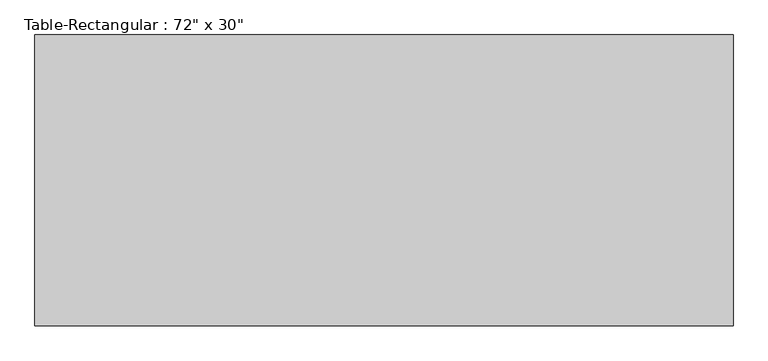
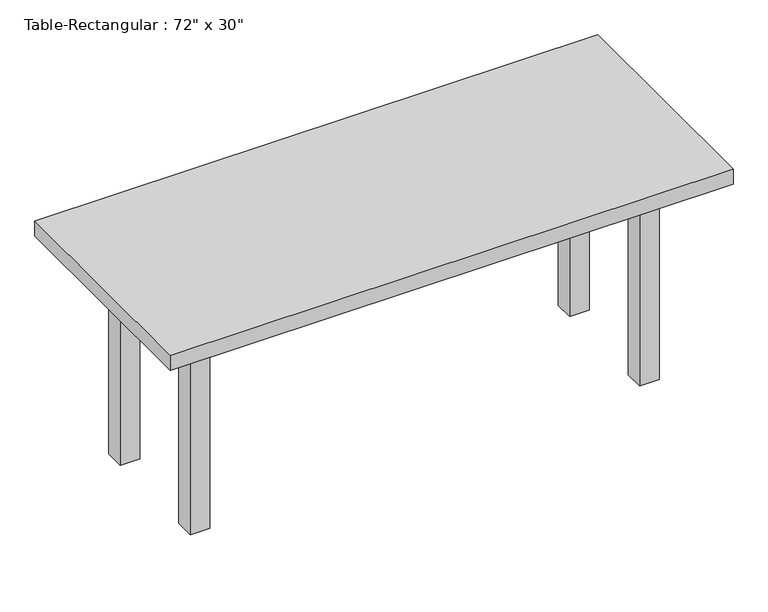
"""IFC4 building model written with IfcOpenShell, lengths in millimetres: furniture geometry."""

import ifcopenshell
import ifcopenshell.guid

model = None  # the IFC model being written
_history = None  # IfcOwnerHistory: only IFC2X3 demands one
_inside = {}  # id of a spatial element -> (the spatial element, [elements in it])
_under = {}  # id of a project, library or spatial element -> (it, [spatial elements below it])
_declared = {}  # id of a project -> (the project, [libraries it declares])
_typed = {}  # id of a type object -> (the type object, [elements of that type])
_made_of = {}  # id of a material, layer set ... -> (it, [elements and type objects made of it])


def new_model(schema):
    """Start an empty IFC model of exactly this schema.

    Asked for "IFC4X3", IfcOpenShell would pick the latest addendum, in which some entities
    have other attributes; the version numbers below select the first issue.
    IFC2X3 requires an IfcOwnerHistory on every rooted entity: one is made here for all.
    """
    global model, _history
    if schema == "IFC4X3":
        model = ifcopenshell.file(schema_version=(4, 3, 0, 0))
    else:
        model = ifcopenshell.file(schema=schema)
    _inside.clear()
    _under.clear()
    _declared.clear()
    _typed.clear()
    _made_of.clear()
    _history = None
    if model.schema == "IFC2X3":
        org = make("IfcOrganization", Name="unknown")
        user = make(
            "IfcPersonAndOrganization",
            ThePerson=make("IfcPerson", FamilyName="unknown"),
            TheOrganization=org,
        )
        app = make(
            "IfcApplication",
            ApplicationDeveloper=org,
            Version="unknown",
            ApplicationFullName="unknown",
            ApplicationIdentifier="unknown",
        )
        _history = make(
            "IfcOwnerHistory",
            OwningUser=user,
            OwningApplication=app,
            ChangeAction="ADDED",
            CreationDate=0,
        )
    return model


def make(cls, **values):
    """One entity of the class cls with the attributes given. An attribute that is None is left unset."""
    return model.create_entity(
        cls, **{name: value for name, value in values.items() if value is not None}
    )


def rooted(cls, **values):
    """An entity with a GlobalId (a new one), such as an element, a storey or a relation."""
    return make(cls, GlobalId=ifcopenshell.guid.new(), OwnerHistory=_history, **values)


def si_unit(unit_type, name, prefix=None):
    """IfcSIUnit, for example si_unit("LENGTHUNIT", "METRE", prefix="MILLI")."""
    return make("IfcSIUnit", UnitType=unit_type, Prefix=prefix, Name=name)


def assignment(units):
    """IfcUnitAssignment: the units of a project."""
    return None if units is None else make("IfcUnitAssignment", Units=units)


def point(xyz):
    """IfcCartesianPoint."""
    return None if xyz is None else make("IfcCartesianPoint", Coordinates=xyz)


def direction(xyz):
    """IfcDirection."""
    return None if xyz is None else make("IfcDirection", DirectionRatios=xyz)


def frame(location, z_axis=None, x_axis=None):
    """IfcAxis2Placement3D, a coordinate frame: its origin and axes. An axis left out is left unset."""
    return make(
        "IfcAxis2Placement3D",
        Location=point(location),
        Axis=direction(z_axis),
        RefDirection=direction(x_axis),
    )


def origin():
    """The frame at (0, 0, 0) with its axes left unset."""
    return frame((0.0, 0.0, 0.0))


def origin_with_axes():
    """The frame at (0, 0, 0) with the z axis (0, 0, 1) and the x axis (1, 0, 0) written out."""
    return frame((0.0, 0.0, 0.0), z_axis=(0.0, 0.0, 1.0), x_axis=(1.0, 0.0, 0.0))


def place(relative_to, where):
    """IfcLocalPlacement: puts the frame where relative to a parent placement (None: the world)."""
    return make(
        "IfcLocalPlacement", PlacementRelTo=relative_to, RelativePlacement=where
    )


def context(
    kind, dimensions, precision=None, world=None, true_north=None, identifier=None
):
    """IfcGeometricRepresentationContext, for example the 3D "Model" context."""
    return make(
        "IfcGeometricRepresentationContext",
        ContextIdentifier=identifier,
        ContextType=kind,
        CoordinateSpaceDimension=dimensions,
        Precision=precision,
        WorldCoordinateSystem=world,
        TrueNorth=true_north,
    )


def project(units=None, contexts=None):
    """IfcProject with its units and contexts."""
    return rooted(
        "IfcProject",
        Name="project",
        RepresentationContexts=contexts,
        UnitsInContext=assignment(units),
    )


def spatial(cls, under=None, at=None, **own):
    """A site, building, storey or space (cls), placed at a placement, below another one or the project."""
    s = rooted(cls, ObjectPlacement=at, **own)
    if under is not None:
        _under.setdefault(under.id(), (under, []))[1].append(s)
    return s


def polyline(points):
    """IfcPolyline through the points."""
    return make("IfcPolyline", Points=[point(p) for p in points])


def outline(outer, holes=None, kind="AREA"):
    """IfcArbitraryClosedProfileDef: a profile drawn as a closed curve; with holes, ...WithVoids."""
    if holes is None:
        return make("IfcArbitraryClosedProfileDef", ProfileType=kind, OuterCurve=outer)
    return make(
        "IfcArbitraryProfileDefWithVoids",
        ProfileType=kind,
        OuterCurve=outer,
        InnerCurves=holes,
    )


def extrude(swept, where, along, depth):
    """IfcExtrudedAreaSolid: the profile swept, set in the frame where, extruded along a direction by depth."""
    return make(
        "IfcExtrudedAreaSolid",
        SweptArea=swept,
        Position=where,
        ExtrudedDirection=direction(along),
        Depth=depth,
    )


def shape(context_of_items, identifier, shape_type, items):
    """IfcShapeRepresentation: the items that make up one representation, for example the "Body"."""
    return make(
        "IfcShapeRepresentation",
        ContextOfItems=context_of_items,
        RepresentationIdentifier=identifier,
        RepresentationType=shape_type,
        Items=items,
    )


def source(mapping_origin, context_of_items, identifier, shape_type, items):
    """IfcRepresentationMap: a shape defined once, which mapped items show again and again."""
    return make(
        "IfcRepresentationMap",
        MappingOrigin=mapping_origin,
        MappedRepresentation=shape(context_of_items, identifier, shape_type, items),
    )


def transform(
    local_origin,
    x_axis=None,
    y_axis=None,
    z_axis=None,
    scale=None,
    scale2=None,
    scale3=None,
    uniform=True,
):
    """IfcCartesianTransformationOperator3D, or its non-uniform kind. x_axis, y_axis, z_axis: its Axis1, 2, 3."""
    if uniform:
        return make(
            "IfcCartesianTransformationOperator3D",
            Axis1=direction(x_axis),
            Axis2=direction(y_axis),
            LocalOrigin=point(local_origin),
            Scale=scale,
            Axis3=direction(z_axis),
        )
    return make(
        "IfcCartesianTransformationOperator3DnonUniform",
        Axis1=direction(x_axis),
        Axis2=direction(y_axis),
        LocalOrigin=point(local_origin),
        Scale=scale,
        Axis3=direction(z_axis),
        Scale2=scale2,
        Scale3=scale3,
    )


def mapped(mapping_source, mapping_target):
    """IfcMappedItem: shows the shape of a source again, moved by a transform."""
    return make(
        "IfcMappedItem", MappingSource=mapping_source, MappingTarget=mapping_target
    )


def made_of(thing, what):
    """Note that an element or type object is made of a material, layer set ...; save() writes the relation."""
    if what is not None:
        _made_of.setdefault(what.id(), (what, []))[1].append(thing)
    return thing


def element(
    cls,
    number,
    at=None,
    inside=None,
    cuts=None,
    type_object=None,
    material=None,
    context=None,
    identifier="Body",
    shape_type=None,
    held_by="IfcProductDefinitionShape",
    body=None,
    shapes=None,
    **own,
):
    """One element of the class cls, such as IfcWall. Its Tag is "e" and its number.

    at: its placement. inside: the storey or other place that contains it. cuts: it is an
    opening in that element (IfcRelVoidsElement). A single representation is given by context,
    identifier, shape_type and body (its items); several are given by shapes. held_by: the class
    of the entity that holds the representations. save() writes the other relations.
    """
    e = rooted(cls, Tag="e%d" % number, ObjectPlacement=at, **own)
    if body is not None:
        shapes = [shape(context, identifier, shape_type, body)]
    if shapes is not None:
        e.Representation = make(held_by, Representations=shapes)
    if inside is not None:
        _inside.setdefault(inside.id(), (inside, []))[1].append(e)
    if cuts is not None:
        rooted(
            "IfcRelVoidsElement", RelatingBuildingElement=cuts, RelatedOpeningElement=e
        )
    if type_object is not None:
        _typed.setdefault(type_object.id(), (type_object, []))[1].append(e)
    return made_of(e, material)


def aggregate(whole, parts):
    """IfcRelAggregates: a whole, such as a stair, and the parts it consists of."""
    return rooted("IfcRelAggregates", RelatingObject=whole, RelatedObjects=parts)


def save(model, path):
    """Write the relations noted so far, then the file.

    IfcRelAggregates (storeys below a building ...), IfcRelContainedInSpatialStructure (elements
    in a storey), IfcRelDefinesByType, IfcRelAssociatesMaterial and IfcRelDeclares: one each for
    every whole, place, type object, material and project.
    """
    for whole, parts in _under.values():
        aggregate(whole, parts)
    for where, things in _inside.values():
        rooted(
            "IfcRelContainedInSpatialStructure",
            RelatedElements=things,
            RelatingStructure=where,
        )
    for kind, things in _typed.values():
        rooted("IfcRelDefinesByType", RelatedObjects=things, RelatingType=kind)
    for what, things in _made_of.values():
        rooted("IfcRelAssociatesMaterial", RelatedObjects=things, RelatingMaterial=what)
    for by, libraries in _declared.values():
        rooted("IfcRelDeclares", RelatingContext=by, RelatedDefinitions=libraries)
    model.write(path)


def furniture_a5b052b6(model_context):
    return source(origin(), model_context, "Body", "SweptSolid", [
        extrude(outline(polyline([(698.5, 190.5), (698.5, 165.1), (-698.5, 165.1), (-698.5, 190.5), (698.5, 190.5)])), frame((0.0, 0.0, 609.6), z_axis=(0.0, 0.0, 1.0), x_axis=(1.0, 0.0, 0.0)), (0.0, 0.0, 1.0), 101.6),
        extrude(outline(polyline([(698.5, -190.5), (-698.5, -190.5), (-698.5, -165.1), (698.5, -165.1), (698.5, -190.5)])), frame((0.0, 0.0, 609.6), z_axis=(0.0, 0.0, 1.0), x_axis=(1.0, 0.0, 0.0)), (0.0, 0.0, 1.0), 101.6),
        extrude(outline(polyline([(-711.2, -165.1), (-736.6, -165.1), (-736.6, 165.1), (-711.2, 165.1), (-711.2, -165.1)])), frame((0.0, 0.0, 609.6), z_axis=(0.0, 0.0, 1.0), x_axis=(1.0, 0.0, 0.0)), (0.0, 0.0, 1.0), 101.6),
        extrude(outline(polyline([(711.2, -165.1), (711.2, 165.1), (736.6, 165.1), (736.6, -165.1), (711.2, -165.1)])), frame((0.0, 0.0, 609.6), z_axis=(0.0, 0.0, 1.0), x_axis=(1.0, 0.0, 0.0)), (0.0, 0.0, 1.0), 101.6),
        extrude(outline(polyline([(914.4, 381.0), (914.4, -381.0), (-914.4, -381.0), (-914.4, 381.0), (914.4, 381.0)])), frame((0.0, 0.0, 711.2), z_axis=(0.0, 0.0, 1.0), x_axis=(1.0, 0.0, 0.0)), (0.0, 0.0, 1.0), 50.8),
        extrude(outline(polyline([(-698.5, 228.6), (-698.5, 165.1), (-762.0, 165.1), (-762.0, 228.6), (-698.5, 228.6)])), origin_with_axes(), (0.0, 0.0, 1.0), 711.2),
        extrude(outline(polyline([(698.5, 228.6), (762.0, 228.6), (762.0, 165.1), (698.5, 165.1), (698.5, 228.6)])), origin_with_axes(), (0.0, 0.0, 1.0), 711.2),
        extrude(outline(polyline([(-698.5, -228.6), (-762.0, -228.6), (-762.0, -165.1), (-698.5, -165.1), (-698.5, -228.6)])), origin_with_axes(), (0.0, 0.0, 1.0), 711.2),
        extrude(outline(polyline([(698.5, -228.6), (698.5, -165.1), (762.0, -165.1), (762.0, -228.6), (698.5, -228.6)])), origin_with_axes(), (0.0, 0.0, 1.0), 711.2),
    ])


if __name__ == "__main__":
    model = new_model("IFC4")
    model_context = context("Model", 3, world=origin())
    ifc_project = project(units=[si_unit("LENGTHUNIT", "METRE", prefix="MILLI")], contexts=[model_context])
    site = spatial("IfcSite", under=ifc_project)
    building = spatial("IfcBuilding", under=site)
    placement = place(None, origin())
    furniture_shape = furniture_a5b052b6(model_context)
    element("IfcFurniture", 1, ObjectType="Table-Rectangular : 72\" x 30\"", at=placement, inside=building, context=model_context, shape_type="MappedRepresentation", body=[
        mapped(furniture_shape, transform((0.0, 0.0, 0.0), x_axis=(1.0, 0.0, 0.0), y_axis=(0.0, 1.0, 0.0), z_axis=(0.0, 0.0, 1.0))),
    ])
    save(model, "model.ifc")
